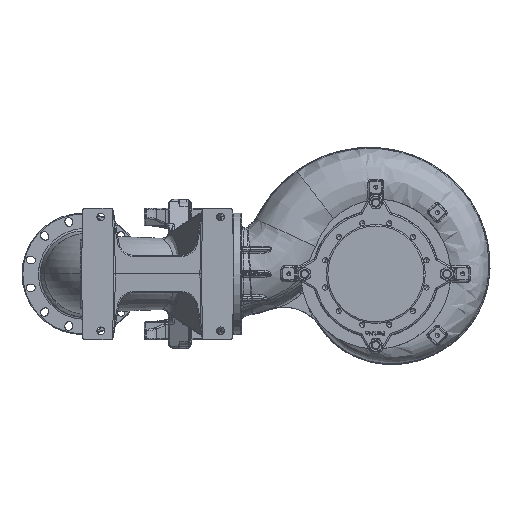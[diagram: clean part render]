
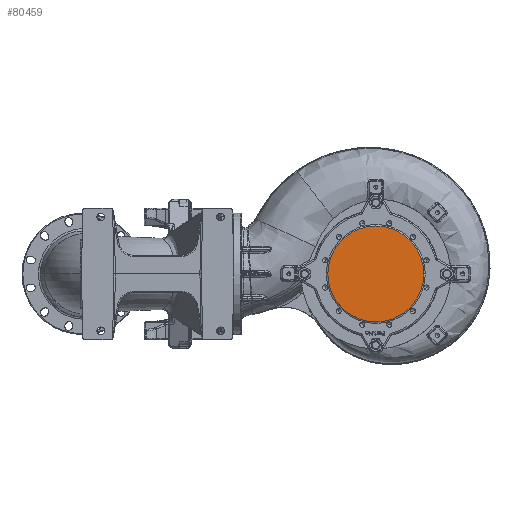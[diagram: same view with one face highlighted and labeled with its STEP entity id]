
A CAD part, front view. The second image highlights one B-rep face of the part: STEP entity #80459.
In plain terms, the highlighted planar face has unit normal (0, -1, 0).
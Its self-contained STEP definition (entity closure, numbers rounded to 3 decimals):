
#26924 = EDGE_LOOP ( 'NONE', ( #257879, #203668 ) ) ;
#29210 = CARTESIAN_POINT ( 'NONE',  ( 0., -554.5, 0. ) ) ;
#32678 = DIRECTION ( 'NONE',  ( 0., 1., 0. ) ) ;
#49100 = AXIS2_PLACEMENT_3D ( 'NONE', #163352, #366610, #192519 ) ;
#51694 = EDGE_CURVE ( 'NONE', #278957, #306549, #104517, .T. ) ;
#58396 = DIRECTION ( 'NONE',  ( 1., 0., 0. ) ) ;
#80459 = ADVANCED_FACE ( 'NONE', ( #137123 ), #131536, .T. ) ;
#85021 = CARTESIAN_POINT ( 'NONE',  ( -160., -554.5, 0. ) ) ;
#86786 = AXIS2_PLACEMENT_3D ( 'NONE', #29210, #232416, #58396 ) ;
#104517 = CIRCLE ( 'NONE', #86786, 160. ) ;
#131536 = PLANE ( 'NONE',  #49100 ) ;
#137123 = FACE_OUTER_BOUND ( 'NONE', #26924, .T. ) ;
#163352 = CARTESIAN_POINT ( 'NONE',  ( 0., -554.5, -125. ) ) ;
#192519 = DIRECTION ( 'NONE',  ( -1., 0., 0. ) ) ;
#193389 = EDGE_CURVE ( 'NONE', #306549, #278957, #302781, .T. ) ;
#203668 = ORIENTED_EDGE ( 'NONE', *, *, #51694, .F. ) ;
#206656 = CARTESIAN_POINT ( 'NONE',  ( 0., -554.5, 0. ) ) ;
#232416 = DIRECTION ( 'NONE',  ( 0., 1., 0. ) ) ;
#235839 = DIRECTION ( 'NONE',  ( 1., 0., 0. ) ) ;
#257879 = ORIENTED_EDGE ( 'NONE', *, *, #193389, .F. ) ;
#261603 = CARTESIAN_POINT ( 'NONE',  ( 160., -554.5, 0. ) ) ;
#262399 = AXIS2_PLACEMENT_3D ( 'NONE', #206656, #32678, #235839 ) ;
#278957 = VERTEX_POINT ( 'NONE', #261603 ) ;
#302781 = CIRCLE ( 'NONE', #262399, 160. ) ;
#306549 = VERTEX_POINT ( 'NONE', #85021 ) ;
#366610 = DIRECTION ( 'NONE',  ( 0., -1., 0. ) ) ;
